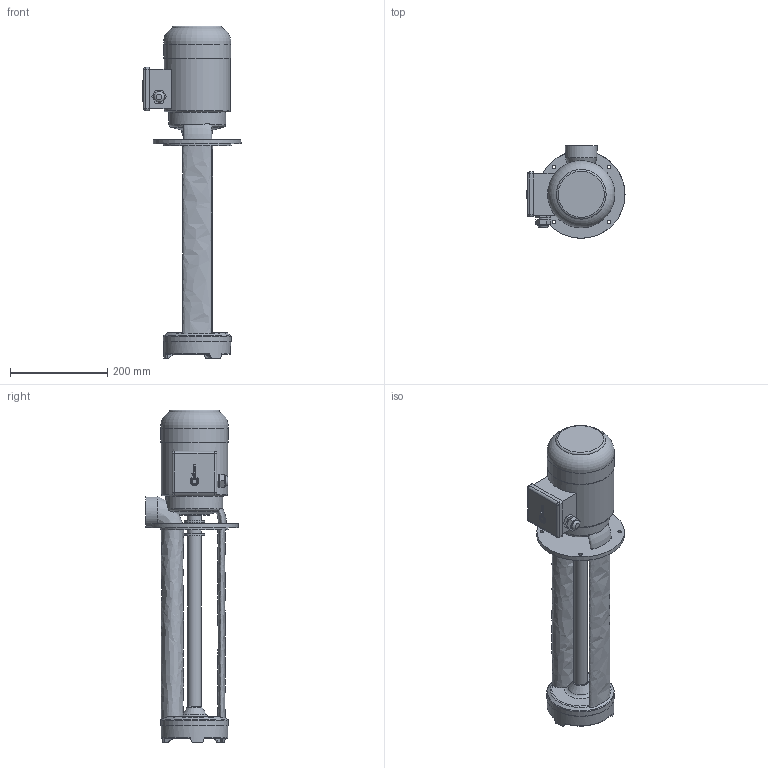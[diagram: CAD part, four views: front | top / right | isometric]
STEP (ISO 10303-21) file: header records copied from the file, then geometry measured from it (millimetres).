
FILE_DESCRIPTION(/* description */ ('Unknown'),/* implementation_level */ '2;1');
FILE_NAME(/* name */ 'EP 150-440',/* time_stamp */ '2023-03-08T16:18:45+03:00',/* author */ ('Unknown'),/* organization */ ('Unknown'),/* preprocessor_version */ 'ST-DEVELOPER v16.7',/* originating_system */ 'DEX',/* authorisation */ $);
FILE_SCHEMA (('AUTOMOTIVE_DESIGN {1 0 10303 214 3 1 1}'));
Length unit declared in the file: millimetre
Products named in the file (1): EP 150-440
Bounding box: 201.5 x 190 x 682.36 mm (x, y, z)
Volume: 5731577.7 mm3; surface area: 398199 mm2
Topology: 1 solids, 1 shells, 268 faces, 678 edges, 435 vertices
Faces by surface type: plane 91, bspline 81, cylinder 56, torus 26, cone 14
Full cylindrical faces by diameter (mm): 7 x4, 17 x1, 21.5 x1, 28 x1, 29 x3, 30 x1, 42 x2, 44 x1, 48 x1, 62 x1, 94 x1, 116.969 x1, 136.473 x1, 137 x1, 137.994 x1, 139 x1, 140 x1, 180 x1
Entity records: 11389 total; most frequent: CARTESIAN_POINT 5687, ORIENTED_EDGE 1212, DIRECTION 973, EDGE_CURVE 606, VERTEX_POINT 419, AXIS2_PLACEMENT_3D 372, EDGE_LOOP 363, FACE_BOUND 363
